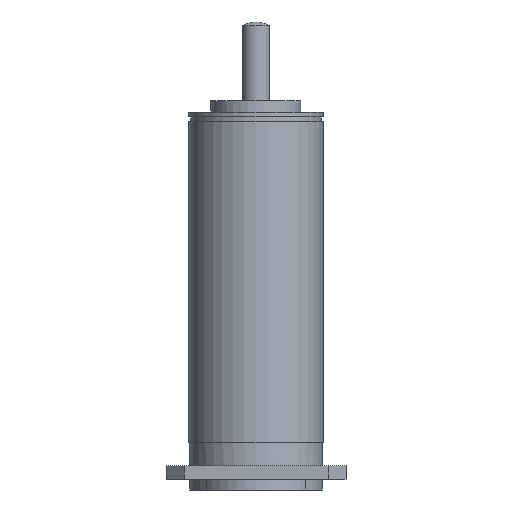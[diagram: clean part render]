
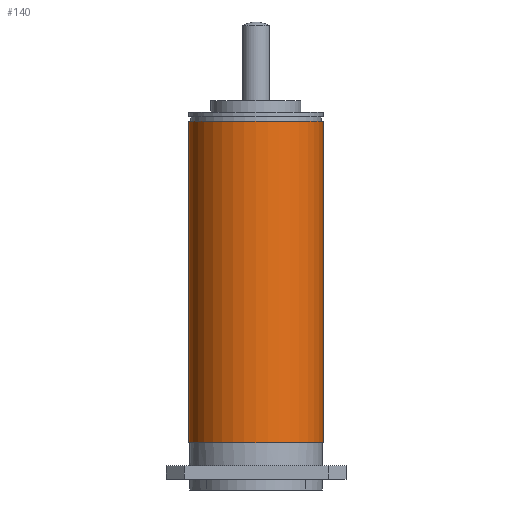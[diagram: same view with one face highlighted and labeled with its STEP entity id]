
A CAD part, front view. The second image highlights one B-rep face of the part: STEP entity #140.
In plain terms, the highlighted cylindrical face has radius 1.5 mm (diameter 3 mm), a full revolution.
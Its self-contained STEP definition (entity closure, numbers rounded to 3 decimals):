
#93=CYLINDRICAL_SURFACE('',#1171,1.5);
#119=FACE_BOUND('',#310,.T.);
#120=FACE_BOUND('',#311,.T.);
#140=ADVANCED_FACE('',(#119,#120),#93,.T.);
#310=EDGE_LOOP('',(#429));
#311=EDGE_LOOP('',(#430));
#376=CIRCLE('',#1167,1.5);
#377=CIRCLE('',#1169,1.5);
#429=ORIENTED_EDGE('',*,*,#815,.F.);
#430=ORIENTED_EDGE('',*,*,#816,.T.);
#708=VERTEX_POINT('',#1551);
#709=VERTEX_POINT('',#1554);
#815=EDGE_CURVE('',#708,#708,#376,.T.);
#816=EDGE_CURVE('',#709,#709,#377,.T.);
#1167=AXIS2_PLACEMENT_3D('',#1550,#1289,#1290);
#1169=AXIS2_PLACEMENT_3D('',#1553,#1293,#1294);
#1171=AXIS2_PLACEMENT_3D('',#1556,#1297,#1298);
#1289=DIRECTION('',(0.,0.,-1.));
#1290=DIRECTION('',(-1.,0.,0.));
#1293=DIRECTION('',(0.,0.,-1.));
#1294=DIRECTION('',(-1.,0.,0.));
#1297=DIRECTION('',(0.,0.,-1.));
#1298=DIRECTION('',(-1.,0.,0.));
#1550=CARTESIAN_POINT('',(0.,0.,-7.35));
#1551=CARTESIAN_POINT('',(-1.5,0.,-7.35));
#1553=CARTESIAN_POINT('',(0.,0.,-0.21));
#1554=CARTESIAN_POINT('',(-1.5,0.,-0.21));
#1556=CARTESIAN_POINT('',(0.,0.,-0.21));
